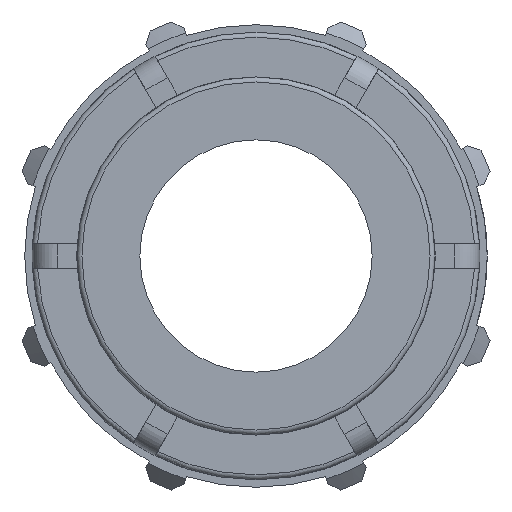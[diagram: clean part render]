
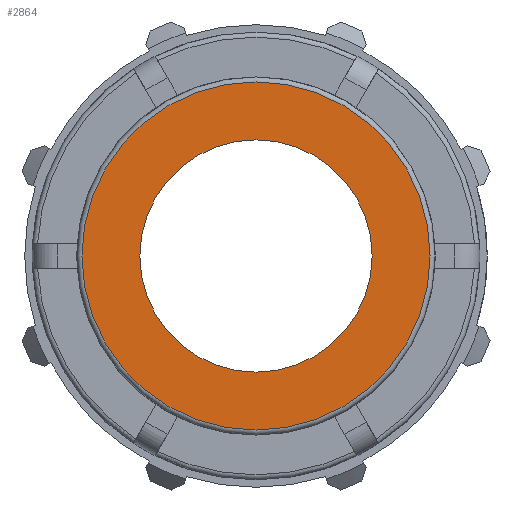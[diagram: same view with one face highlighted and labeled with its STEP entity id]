
A CAD part, left-side view. The second image highlights one B-rep face of the part: STEP entity #2864.
In plain terms, the highlighted planar face has unit normal (-1, 0, 0).
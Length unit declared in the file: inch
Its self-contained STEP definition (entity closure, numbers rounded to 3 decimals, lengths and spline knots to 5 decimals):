
#66=FACE_BOUND('',#814,.T.);
#549=PLANE('',#3106);
#659=FACE_OUTER_BOUND('',#813,.T.);
#813=EDGE_LOOP('',(#2161,#2162));
#814=EDGE_LOOP('',(#2163,#2164));
#973=CIRCLE('',#3103,1.32293);
#974=CIRCLE('',#3104,1.32293);
#976=CIRCLE('',#3107,0.88278);
#977=CIRCLE('',#3108,0.88278);
#1224=VERTEX_POINT('',#4875);
#1225=VERTEX_POINT('',#4877);
#1226=VERTEX_POINT('',#4882);
#1227=VERTEX_POINT('',#4883);
#1570=EDGE_CURVE('',#1224,#1225,#973,.T.);
#1571=EDGE_CURVE('',#1225,#1224,#974,.T.);
#1573=EDGE_CURVE('',#1226,#1227,#976,.T.);
#1574=EDGE_CURVE('',#1227,#1226,#977,.T.);
#2161=ORIENTED_EDGE('',*,*,#1571,.F.);
#2162=ORIENTED_EDGE('',*,*,#1570,.F.);
#2163=ORIENTED_EDGE('',*,*,#1573,.T.);
#2164=ORIENTED_EDGE('',*,*,#1574,.T.);
#2864=ADVANCED_FACE('',(#659,#66),#549,.T.);
#3103=AXIS2_PLACEMENT_3D('',#4878,#3631,#3632);
#3104=AXIS2_PLACEMENT_3D('',#4879,#3633,#3634);
#3106=AXIS2_PLACEMENT_3D('',#4881,#3637,#3638);
#3107=AXIS2_PLACEMENT_3D('',#4884,#3639,#3640);
#3108=AXIS2_PLACEMENT_3D('',#4885,#3641,#3642);
#3631=DIRECTION('center_axis',(1.,0.,0.));
#3632=DIRECTION('ref_axis',(0.,-1.,0.));
#3633=DIRECTION('center_axis',(1.,0.,0.));
#3634=DIRECTION('ref_axis',(0.,-1.,0.));
#3637=DIRECTION('center_axis',(-1.,0.,0.));
#3638=DIRECTION('ref_axis',(0.,0.,1.));
#3639=DIRECTION('center_axis',(1.,0.,0.));
#3640=DIRECTION('ref_axis',(0.,0.,-1.));
#3641=DIRECTION('center_axis',(1.,0.,0.));
#3642=DIRECTION('ref_axis',(0.,0.,-1.));
#4875=CARTESIAN_POINT('',(0.,0.,1.32293));
#4877=CARTESIAN_POINT('',(0.,1.32293,0.));
#4878=CARTESIAN_POINT('Origin',(0.,0.,0.));
#4879=CARTESIAN_POINT('Origin',(0.,0.,0.));
#4881=CARTESIAN_POINT('Origin',(0.,1.3608,0.));
#4882=CARTESIAN_POINT('',(0.,0.88278,0.));
#4883=CARTESIAN_POINT('',(0.,-0.88278,0.));
#4884=CARTESIAN_POINT('Origin',(0.,0.,0.));
#4885=CARTESIAN_POINT('Origin',(0.,0.,0.));
